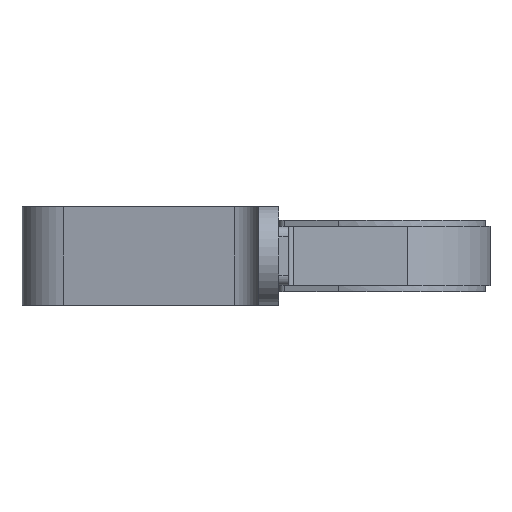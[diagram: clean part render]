
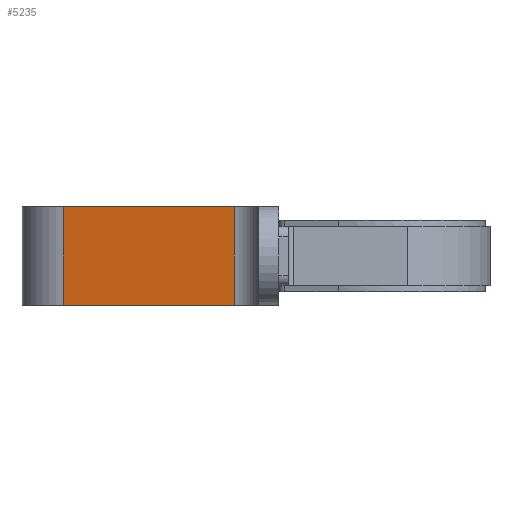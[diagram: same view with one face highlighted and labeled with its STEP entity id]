
A CAD part, front view. The second image highlights one B-rep face of the part: STEP entity #5235.
In plain terms, the highlighted planar face has unit normal (-0.167, -0.986, 0).
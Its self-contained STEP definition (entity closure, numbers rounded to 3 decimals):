
#181=PLANE('',#5793);
#445=FACE_OUTER_BOUND('',#744,.T.);
#744=EDGE_LOOP('',(#4780,#4781,#4782,#4783));
#1528=LINE('',#13192,#1943);
#1538=LINE('',#13226,#1953);
#1541=LINE('',#13237,#1956);
#1542=LINE('',#13239,#1957);
#1943=VECTOR('',#7221,10.);
#1953=VECTOR('',#7251,10.);
#1956=VECTOR('',#7262,10.);
#1957=VECTOR('',#7265,10.);
#2453=VERTEX_POINT('',#13189);
#2454=VERTEX_POINT('',#13191);
#2467=VERTEX_POINT('',#13223);
#2468=VERTEX_POINT('',#13225);
#3229=EDGE_CURVE('',#2453,#2454,#1528,.T.);
#3247=EDGE_CURVE('',#2467,#2468,#1538,.T.);
#3253=EDGE_CURVE('',#2454,#2467,#1541,.T.);
#3254=EDGE_CURVE('',#2453,#2468,#1542,.T.);
#4780=ORIENTED_EDGE('',*,*,#3253,.F.);
#4781=ORIENTED_EDGE('',*,*,#3229,.F.);
#4782=ORIENTED_EDGE('',*,*,#3254,.T.);
#4783=ORIENTED_EDGE('',*,*,#3247,.F.);
#5235=ADVANCED_FACE('',(#445),#181,.T.);
#5793=AXIS2_PLACEMENT_3D('',#13238,#7263,#7264);
#7221=DIRECTION('',(0.986,-0.167,0.));
#7251=DIRECTION('',(-0.986,0.167,0.));
#7262=DIRECTION('',(0.,0.,-1.));
#7263=DIRECTION('center_axis',(-0.167,-0.986,0.));
#7264=DIRECTION('ref_axis',(0.986,-0.167,0.));
#7265=DIRECTION('',(0.,0.,-1.));
#13189=CARTESIAN_POINT('',(8.329,-57.075,10.));
#13191=CARTESIAN_POINT('',(43.003,-62.952,10.));
#13192=CARTESIAN_POINT('',(43.003,-62.952,10.));
#13223=CARTESIAN_POINT('',(43.003,-62.952,-10.));
#13225=CARTESIAN_POINT('',(8.329,-57.075,-10.));
#13226=CARTESIAN_POINT('',(43.003,-62.952,-10.));
#13237=CARTESIAN_POINT('',(43.003,-62.952,0.));
#13238=CARTESIAN_POINT('Origin',(8.329,-57.075,0.));
#13239=CARTESIAN_POINT('',(8.329,-57.075,0.));
